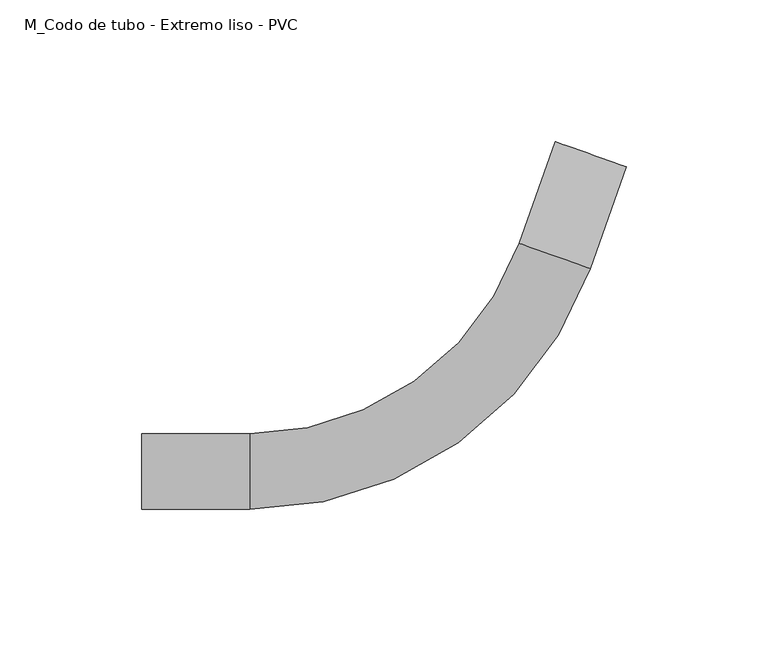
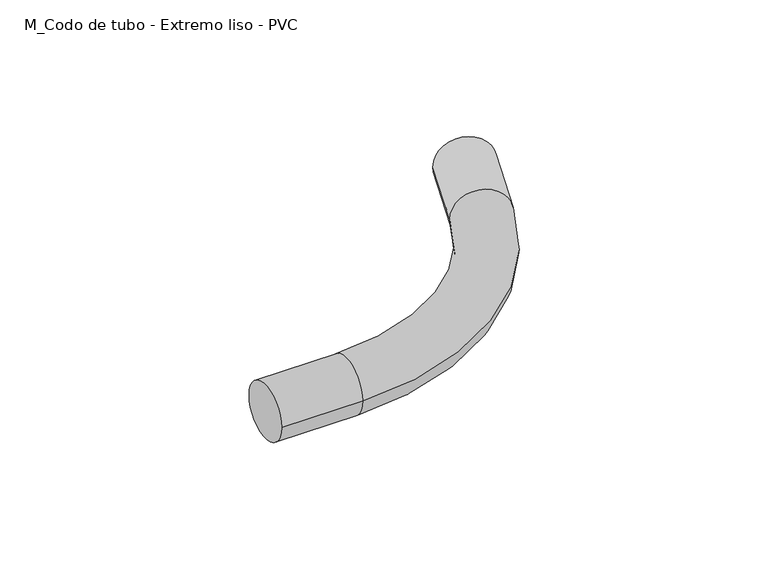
"""IFC4 building model written with IfcOpenShell, lengths in millimetres: cable carrier fitting geometry, M_Codo de tubo - Extremo liso - PVC : CODO ILUMINACION."""

from ifc_helpers import new_model, si_unit, point, frame, origin, place, context, project, spatial, circle_curve, ellipse_curve, trimmed, source, transform, mapped, element, save
from ifc_brep_helpers import plane_surface, cylinder_surface, revolved_surface, advanced_brep


def m_codo_de_tubo_extremo_liso_pvc_bdf38e05(model_context):
    return source(origin(), model_context, "Body", "AdvancedBrep", [
        advanced_brep(
        [(-118.7831925, -13.335, 0.0), (-118.7831925, 13.335, 0.0), (-80.6831925, -13.335, 0.0), (-80.6831925, 13.335, 0.0), (14.452751, 80.4904824, 0.0), (39.5830003, 71.5596665, 0.0), (52.3413088, 107.4600225, 0.0), (27.2110595, 116.3908385, 0.0)],
        [
            (0, 1, circle_curve(frame((-118.7831925, 0.0, 0.0), z_axis=(-1.0, 0.0, 0.0), x_axis=(0.0, 1.0, 0.0)), 13.335)),
            (1, 0, circle_curve(frame((-118.7831925, 0.0, 0.0), z_axis=(-1.0, 0.0, 0.0), x_axis=(0.0, 1.0, 0.0)), 13.335)),
            (0, 2),
            (2, 3, circle_curve(frame((-80.6831925, 0.0, 0.0), z_axis=(-1.0, 0.0, 0.0), x_axis=(0.0, 1.0, 0.0)), 13.335)),
            (3, 1),
            (3, 2, circle_curve(frame((-80.6831925, 0.0, 0.0), z_axis=(-1.0, 0.0, 0.0), x_axis=(0.0, 1.0, 0.0)), 13.335)),
            (4, 3, circle_curve(frame((-80.6831925, 114.3, 0.0), z_axis=(0.0, 0.0, -1.0), x_axis=(0.0, -1.0, 0.0)), 100.965)),
            (2, 5, circle_curve(frame((-80.6831925, 114.3, 0.0), z_axis=(0.0, 0.0, 1.0), x_axis=(0.0, -1.0, 0.0)), 127.635)),
            (5, 4, circle_curve(frame((27.0178756, 76.0250744, 0.0), z_axis=(-0.3348637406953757, -0.9422665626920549, 0.0), x_axis=(-0.9422665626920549, 0.3348637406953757, 0.0)), 13.335)),
            (4, 5, circle_curve(frame((27.0178756, 76.0250744, 0.0), z_axis=(-0.3348637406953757, -0.9422665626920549, 0.0), x_axis=(-0.9422665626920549, 0.3348637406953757, 0.0)), 13.335)),
            (6, 7, circle_curve(frame((39.7761842, 111.9254305, 0.0), z_axis=(0.33486374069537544, 0.942266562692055, 0.0), x_axis=(-0.942266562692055, 0.33486374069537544, 0.0)), 13.335)),
            (7, 6, circle_curve(frame((39.7761842, 111.9254305, 0.0), z_axis=(0.33486374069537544, 0.942266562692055, 0.0), x_axis=(-0.942266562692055, 0.33486374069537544, 0.0)), 13.335)),
            (5, 6),
            (7, 4),
        ],
        [
            plane_surface(frame((-118.7831925, 0.0, 0.0), z_axis=(-1.0, 0.0, 0.0), x_axis=(0.0, 0.0, 1.0))),
            cylinder_surface(frame((-118.7831925, 0.0, 0.0), z_axis=(-1.0, 0.0, 0.0), x_axis=(0.0, 1.0, 0.0)), 13.335),
            revolved_surface(trimmed(ellipse_curve(frame((-80.6831925, 0.0, 0.0), z_axis=(-1.0, 0.0, 0.0), x_axis=(0.0, 1.0, 0.0)), 13.335, 13.335), [point((-80.6831925, -13.335, 0.0))], [point((-80.6831925, 13.335, 0.0))], True, "CARTESIAN"), (-80.6831925, 114.3, 0.0), (0.0, 0.0, 1.0)),
            revolved_surface(trimmed(ellipse_curve(frame((-80.6831925, 0.0, 0.0), z_axis=(-1.0, 0.0, 0.0), x_axis=(0.0, 1.0, 0.0)), 13.335, 13.335), [point((-80.6831925, 13.335, 0.0))], [point((-80.6831925, -13.335, 0.0))], True, "CARTESIAN"), (-80.6831925, 114.3, 0.0), (0.0, 0.0, 1.0)),
            plane_surface(frame((39.7761842, 111.9254305, 0.0), z_axis=(0.33486374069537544, 0.942266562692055, 0.0), x_axis=(0.0, 0.0, 1.0))),
            cylinder_surface(frame((27.0178756, 76.0250744, 0.0), z_axis=(-0.33486374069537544, -0.942266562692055, 0.0), x_axis=(-0.942266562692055, 0.33486374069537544, 0.0)), 13.335),
        ],
        [
            (0, [[1, 2]]),
            (1, [[-1, 3, 4, 5]]),
            (1, [[-2, -5, 6, -3]]),
            (2, [[7, -4, 8, 9]]),
            (3, [[-8, -6, -7, 10]]),
            (4, [[11, 12]]),
            (5, [[-9, 13, -12, 14]]),
            (5, [[-10, -14, -11, -13]]),
        ],
    ),
    ])


if __name__ == "__main__":
    model = new_model("IFC4")
    model_context = context("Model", 3, world=origin())
    ifc_project = project(units=[si_unit("LENGTHUNIT", "METRE", prefix="MILLI")], contexts=[model_context])
    site = spatial("IfcSite", under=ifc_project)
    building = spatial("IfcBuilding", under=site)
    placement = place(None, origin())
    m_codo_de_tubo_extremo_liso_pvc_shape = m_codo_de_tubo_extremo_liso_pvc_bdf38e05(model_context)
    element("IfcCableCarrierFitting", 1, ObjectType="M_Codo de tubo - Extremo liso - PVC : CODO ILUMINACION", at=placement, inside=building, context=model_context, shape_type="MappedRepresentation", body=[
        mapped(m_codo_de_tubo_extremo_liso_pvc_shape, transform((0.0, 0.0, 0.0), x_axis=(1.0, 0.0, 0.0), y_axis=(0.0, 1.0, 0.0), z_axis=(0.0, 0.0, 1.0))),
    ])
    save(model, "model.ifc")
